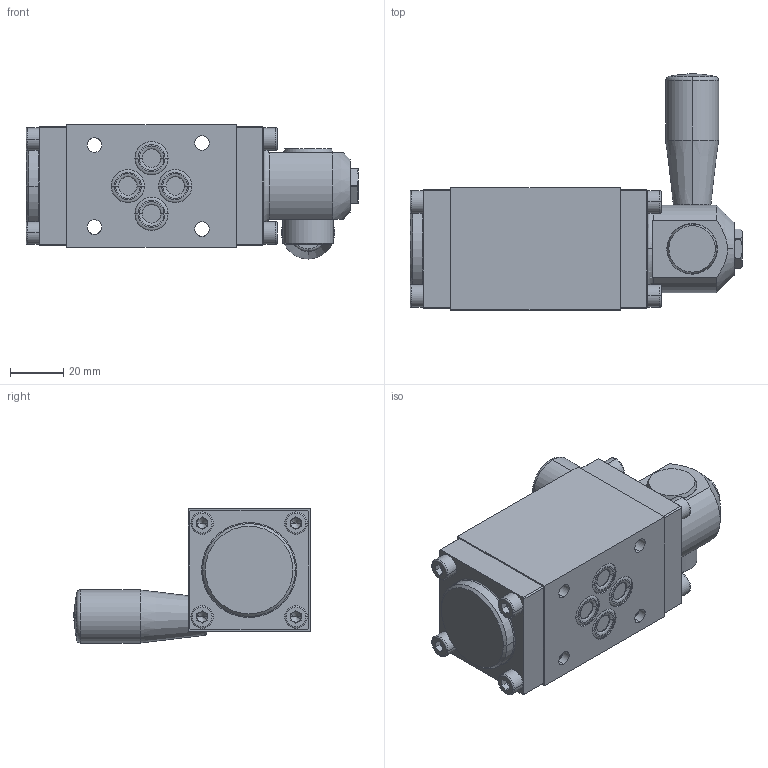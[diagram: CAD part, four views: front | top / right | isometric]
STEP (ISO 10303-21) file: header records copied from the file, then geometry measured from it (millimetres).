
FILE_DESCRIPTION (( 'STEP AP214' ), '1' );
FILE_NAME ('Ag32060b.STEP', '2019-09-03T09:01:09', ( '' ), ( '' ), 'SwSTEP 2.0', 'SolidWorks 2018', '' );
FILE_SCHEMA (( 'AUTOMOTIVE_DESIGN' ));
Length unit declared in the file: millimetre
Products named in the file (1): Ag32060b
Bounding box: 125.1 x 89 x 50.5 mm (x, y, z)
Volume: 216588.2 mm3; surface area: 39073.5 mm2
Topology: 6 solids, 50 shells, 806 faces, 1842 edges, 1155 vertices
Faces by surface type: plane 318, cylinder 240, cone 102, bspline 72, torus 72, sphere 2
Entity records: 33864 total; most frequent: CARTESIAN_POINT 7121, DIRECTION 3741, ORIENTED_EDGE 3624, EDGE_CURVE 1812, AXIS2_PLACEMENT_3D 1493, VERTEX_POINT 1155, EDGE_LOOP 893, UNCERTAINTY_MEASURE_WITH_UNIT 814
